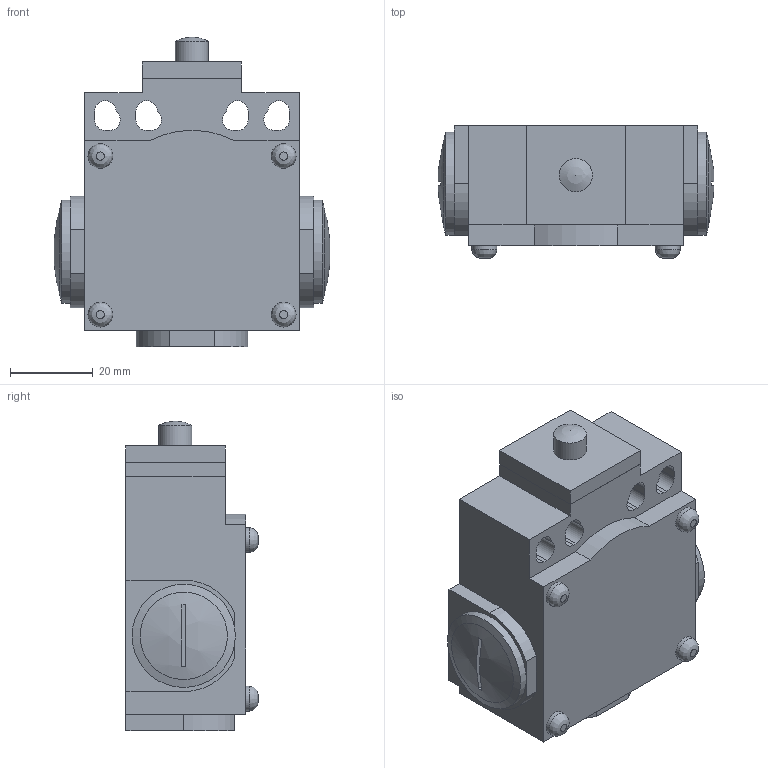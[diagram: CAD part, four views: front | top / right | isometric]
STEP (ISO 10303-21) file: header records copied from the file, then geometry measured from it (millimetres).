
FILE_DESCRIPTION((''),'2;1');
FILE_NAME('D:\Documenti_D\Corrispondenza\Comepi\Catalogo da fare\Modelli Nov 2011\DM e CM\STEP\DM1-F11.iam.step','2011-11-17T12:00:53',(''),(''),'Autodesk Inventor 2010','Autodesk Inventor 2010','');
FILE_SCHEMA(('AUTOMOTIVE_DESIGN { 1 0 10303 214 1 1 1 1 }'));
Length unit declared in the file: millimetre
Products named in the file (7): DM1-F11; T10.iam; T10_1; T10_2; DM1; tappo
Assembly tree (7 placements, depth 3):
  DM1-F11
    T10.iam
      T10_1
      T10_2
    DM1
      DM1
      tappo  x2
Bounding box: 66.83 x 32 x 75 mm (x, y, z)
Volume: 71258.1 mm3; surface area: 23226.2 mm2
Topology: 5 solids, 5 shells, 95 faces, 237 edges, 156 vertices
Faces by surface type: plane 56, cylinder 29, bspline 4, sphere 3, cone 3
Full cylindrical faces by diameter (mm): 6 x4, 8 x2, 20.4 x2, 25 x2
Entity records: 2982 total; most frequent: CARTESIAN_POINT 693, DIRECTION 454, ORIENTED_EDGE 398, EDGE_CURVE 199, AXIS2_PLACEMENT_3D 161, VERTEX_POINT 140, VECTOR 132, LINE 132
